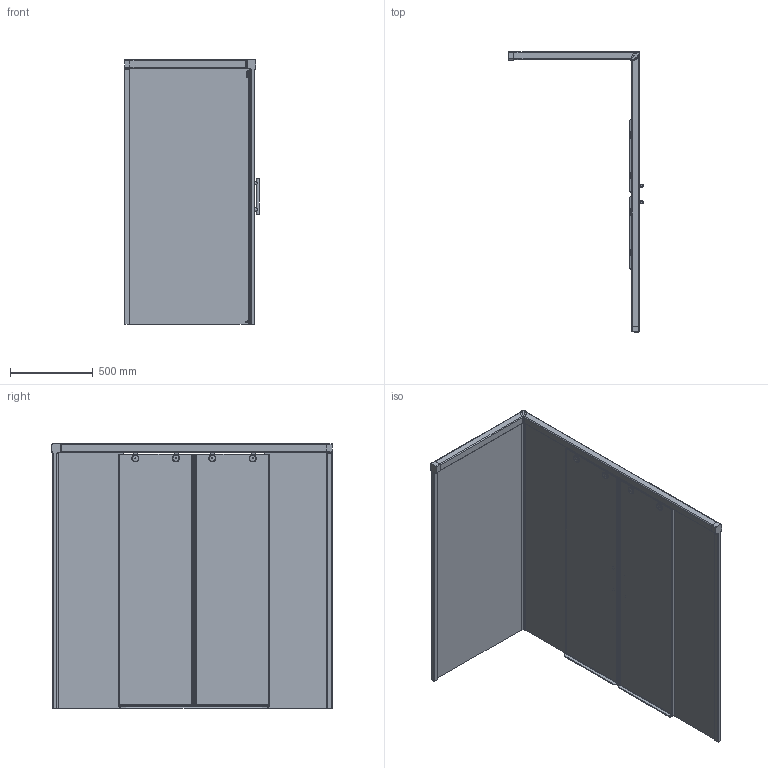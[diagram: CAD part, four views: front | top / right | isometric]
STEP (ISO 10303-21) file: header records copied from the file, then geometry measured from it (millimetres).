
FILE_DESCRIPTION(/* description */ (''),/* implementation_level */ '2;1');
FILE_NAME(/* name */ 'E:\Работа\Сергей\Душевые кабинки\! Работа\SLIDE PART GV-865\SLIDE PART GV-865 левая модель\SLIDE PART GV-865 ЛЕВАЯ-3D.stp',/* time_stamp */ '2018-01-31T19:32:38+03:00',/* author */ ('PC'),/* organization */ (''),/* preprocessor_version */ 'ST-DEVELOPER v15.2',/* originating_system */ 'Autodesk Inventor 2014',/* authorisation */ '');
FILE_SCHEMA (('AUTOMOTIVE_DESIGN { 1 0 10303 214 3 1 1 }'));
Length unit declared in the file: millimetre
Products named in the file (1): SLIDE PART GV-865 ЛЕВАЯ-3D
Bounding box: 816 x 1694.6 x 1601.6 mm (x, y, z)
Volume: 36898033.5 mm3; surface area: 8973220 mm2
Topology: 5 solids, 7 shells, 862 faces, 2409 edges, 1566 vertices
Faces by surface type: plane 519, cylinder 283, torus 32, bspline 28
Full cylindrical faces by diameter (mm): 20 x6, 37 x8, 42 x8
Entity records: 29258 total; most frequent: CARTESIAN_POINT 6123, ORIENTED_EDGE 4706, DIRECTION 4575, EDGE_CURVE 2349, LINE 1609, VECTOR 1609, VERTEX_POINT 1550, AXIS2_PLACEMENT_3D 1483
